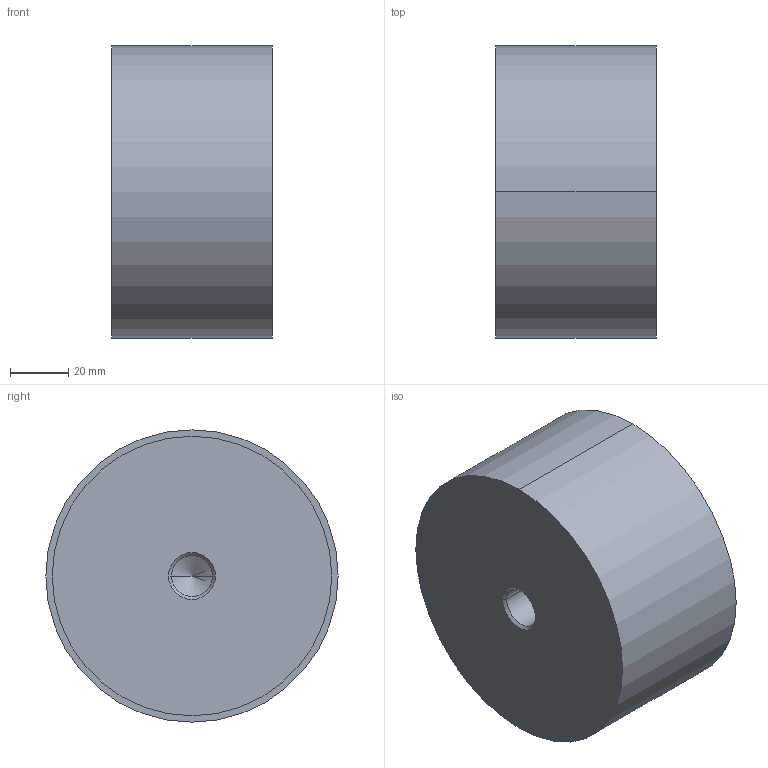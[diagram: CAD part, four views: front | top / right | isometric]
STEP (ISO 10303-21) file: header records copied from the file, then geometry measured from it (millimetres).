
FILE_DESCRIPTION (( 'STEP AP214' ), '1' );
FILE_NAME ('451-100-55-M16-EE-40.step', '2020-03-05T09:09:26', ( '' ), ( '' ), 'SwSTEP 2.0', 'SolidWorks 2019', '' );
FILE_SCHEMA (( 'AUTOMOTIVE_DESIGN' ));
Length unit declared in the file: millimetre
Products named in the file (1): 451-100-55-M16-EE-40
Bounding box: 55 x 100 x 100 mm (x, y, z)
Volume: 426425.7 mm3; surface area: 34402.1 mm2
Topology: 1 solids, 1 shells, 22 faces, 46 edges, 26 vertices
Faces by surface type: cylinder 10, cone 8, plane 4
Entity records: 684 total; most frequent: DIRECTION 112, CARTESIAN_POINT 91, ORIENTED_EDGE 84, AXIS2_PLACEMENT_3D 47, EDGE_CURVE 42, VERTEX_POINT 26, EDGE_LOOP 26, CIRCLE 24
